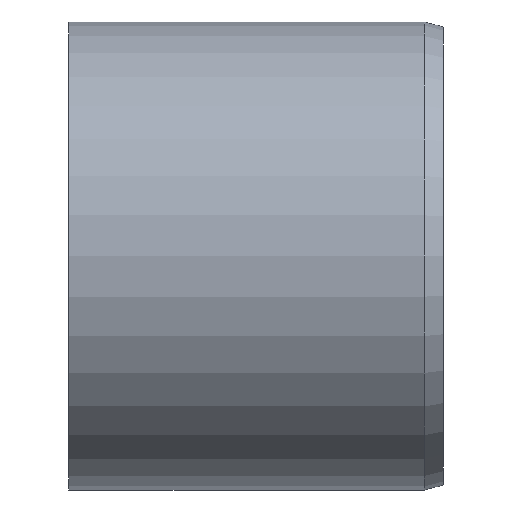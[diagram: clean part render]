
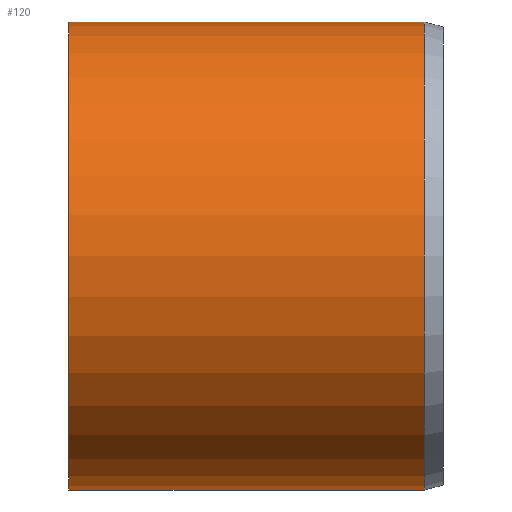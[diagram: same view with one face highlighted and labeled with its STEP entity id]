
A CAD part, front view. The second image highlights one B-rep face of the part: STEP entity #120.
In plain terms, the highlighted cylindrical face has radius 50 mm (diameter 100 mm), a full revolution.
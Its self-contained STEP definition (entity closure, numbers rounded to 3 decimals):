
#20=LINE('',#229,#23);
#23=VECTOR('',#197,50.);
#26=CYLINDRICAL_SURFACE('',#157,50.);
#32=FACE_OUTER_BOUND('',#41,.T.);
#41=EDGE_LOOP('',(#97,#98,#99,#100));
#49=CIRCLE('',#151,50.);
#53=CIRCLE('',#158,50.);
#59=VERTEX_POINT('',#217);
#62=VERTEX_POINT('',#227);
#70=EDGE_CURVE('',#59,#59,#49,.T.);
#74=EDGE_CURVE('',#62,#62,#53,.T.);
#75=EDGE_CURVE('',#62,#59,#20,.T.);
#97=ORIENTED_EDGE('',*,*,#74,.F.);
#98=ORIENTED_EDGE('',*,*,#75,.T.);
#99=ORIENTED_EDGE('',*,*,#70,.T.);
#100=ORIENTED_EDGE('',*,*,#75,.F.);
#120=ADVANCED_FACE('',(#32),#26,.T.);
#151=AXIS2_PLACEMENT_3D('',#218,#181,#182);
#157=AXIS2_PLACEMENT_3D('',#226,#193,#194);
#158=AXIS2_PLACEMENT_3D('',#228,#195,#196);
#181=DIRECTION('center_axis',(1.,0.,0.));
#182=DIRECTION('ref_axis',(0.,0.,-1.));
#193=DIRECTION('center_axis',(1.,0.,0.));
#194=DIRECTION('ref_axis',(0.,1.,0.));
#195=DIRECTION('center_axis',(1.,0.,0.));
#196=DIRECTION('ref_axis',(0.,0.,-1.));
#197=DIRECTION('',(-1.,0.,0.));
#217=CARTESIAN_POINT('',(0.,-50.,0.));
#218=CARTESIAN_POINT('Origin',(0.,0.,0.));
#226=CARTESIAN_POINT('Origin',(38.,0.,0.));
#227=CARTESIAN_POINT('',(76.,-50.,0.));
#228=CARTESIAN_POINT('Origin',(76.,0.,0.));
#229=CARTESIAN_POINT('',(38.,-50.,0.));
